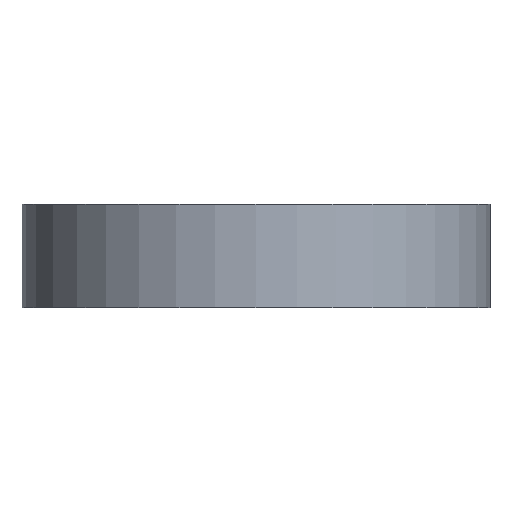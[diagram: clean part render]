
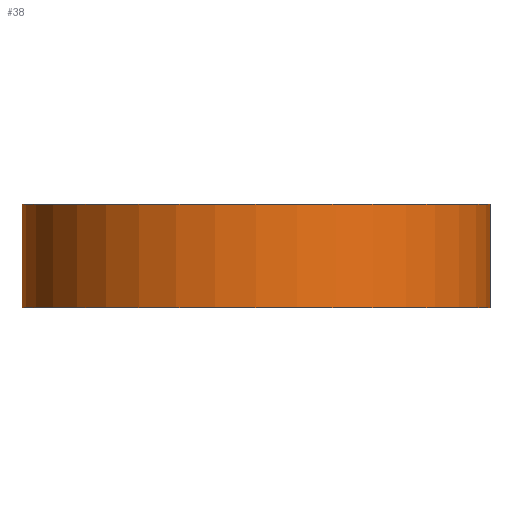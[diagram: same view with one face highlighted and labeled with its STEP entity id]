
A CAD part, front view. The second image highlights one B-rep face of the part: STEP entity #38.
In plain terms, the highlighted cylindrical face has radius 15.9 mm (diameter 31.8 mm), a full revolution.
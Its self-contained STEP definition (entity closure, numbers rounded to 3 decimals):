
#38 = ADVANCED_FACE( '', ( #79, #80 ), #81, .T. );
#79 = FACE_OUTER_BOUND( '', #126, .T. );
#80 = FACE_OUTER_BOUND( '', #127, .T. );
#81 = CYLINDRICAL_SURFACE( '', #128, 15.9 );
#126 = EDGE_LOOP( '', ( #171 ) );
#127 = EDGE_LOOP( '', ( #172 ) );
#128 = AXIS2_PLACEMENT_3D( '', #173, #174, #175 );
#171 = ORIENTED_EDGE( '', *, *, #225, .F. );
#172 = ORIENTED_EDGE( '', *, *, #219, .T. );
#173 = CARTESIAN_POINT( '', ( 0., 0., 54. ) );
#174 = DIRECTION( '', ( 0., 0., 1. ) );
#175 = DIRECTION( '', ( -1., 0., 0. ) );
#219 = EDGE_CURVE( '', #239, #239, #240, .T. );
#225 = EDGE_CURVE( '', #249, #249, #250, .T. );
#239 = VERTEX_POINT( '', #269 );
#240 = CIRCLE( '', #270, 15.9 );
#249 = VERTEX_POINT( '', #279 );
#250 = CIRCLE( '', #280, 15.9 );
#269 = CARTESIAN_POINT( '', ( -15.9, 0., 3.5 ) );
#270 = AXIS2_PLACEMENT_3D( '', #298, #299, #300 );
#279 = CARTESIAN_POINT( '', ( -15.9, 0., -3.5 ) );
#280 = AXIS2_PLACEMENT_3D( '', #310, #311, #312 );
#298 = CARTESIAN_POINT( '', ( 0., 0., 3.5 ) );
#299 = DIRECTION( '', ( 0., 0., -1. ) );
#300 = DIRECTION( '', ( -1., 0., 0. ) );
#310 = CARTESIAN_POINT( '', ( 0., 0., -3.5 ) );
#311 = DIRECTION( '', ( 0., 0., -1. ) );
#312 = DIRECTION( '', ( -1., 0., 0. ) );
